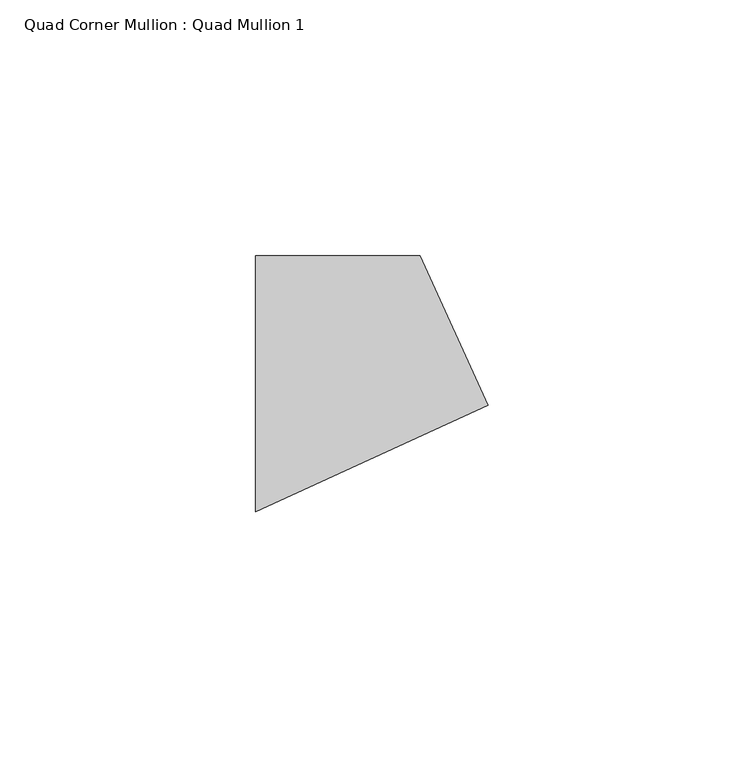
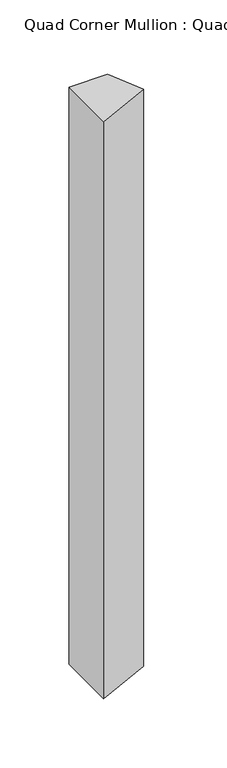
"""IFC4 building model written with IfcOpenShell, lengths in millimetres: member geometry, Quad Corner Mullion : Quad Mullion 1."""

from ifc_helpers import new_model, si_unit, frame, origin, place, context, project, spatial, polyline, outline, extrude, source, transform, mapped, element, save


def quad_corner_mullion_quad_mullion_1_ea90a71b(model_context):
    return source(origin(), model_context, "Body", "SweptSolid", [
        extrude(outline(polyline([(29.4125559, -4.1926582), (-16.0523154, -25.0), (-16.0523154, 25.0), (16.0523154, 25.0), (29.4125559, -4.1926582)])), frame((0.0, 0.0, -509.420565), z_axis=(0.0, 0.0, 1.0), x_axis=(1.0, 0.0, 0.0)), (0.0, 0.0, 1.0), 509.420565),
    ])


if __name__ == "__main__":
    model = new_model("IFC4")
    model_context = context("Model", 3, world=origin())
    ifc_project = project(units=[si_unit("LENGTHUNIT", "METRE", prefix="MILLI")], contexts=[model_context])
    site = spatial("IfcSite", under=ifc_project)
    building = spatial("IfcBuilding", under=site)
    placement = place(None, origin())
    quad_corner_mullion_quad_mullion_1_shape = quad_corner_mullion_quad_mullion_1_ea90a71b(model_context)
    element("IfcMember", 1, ObjectType="Quad Corner Mullion : Quad Mullion 1", at=placement, inside=building, context=model_context, shape_type="MappedRepresentation", body=[
        mapped(quad_corner_mullion_quad_mullion_1_shape, transform((0.0, 0.0, 0.0), x_axis=(1.0, 0.0, 0.0), y_axis=(0.0, 1.0, 0.0), z_axis=(0.0, 0.0, 1.0))),
    ])
    save(model, "model.ifc")
